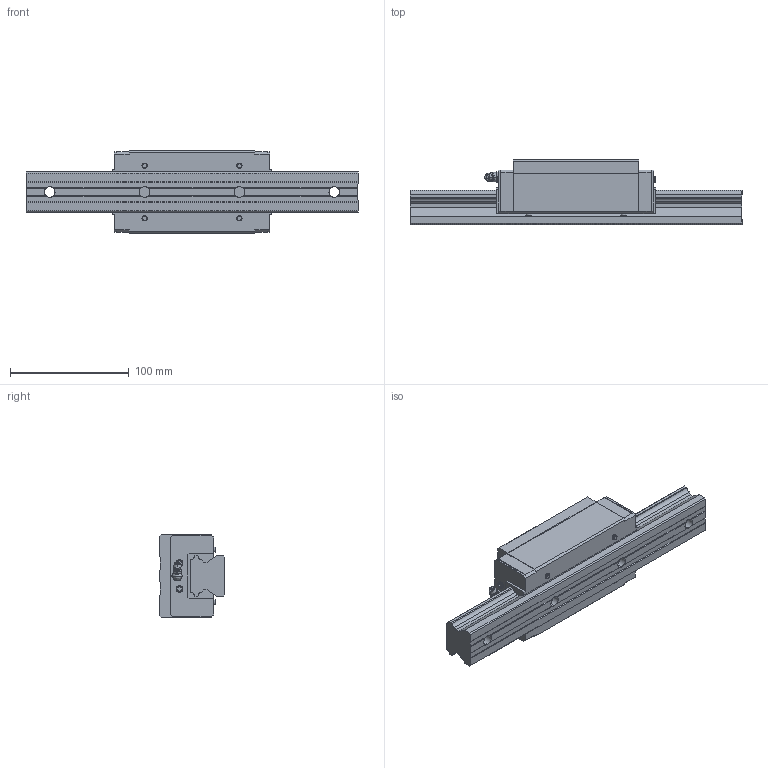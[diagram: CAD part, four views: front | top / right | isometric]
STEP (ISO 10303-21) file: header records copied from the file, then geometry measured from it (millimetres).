
FILE_DESCRIPTION (( 'STEP AP203' ), '1' );
FILE_NAME ('HSR35LRSSC.STEP', '2016-03-29T11:27:11', ( 'EOS' ), ( '' ), 'SwSTEP 2.0', 'SolidWorks 2016', '' );
FILE_SCHEMA (( 'CONFIG_CONTROL_DESIGN' ));
Length unit declared in the file: millimetre
Products named in the file (4): 1; HSR35LRSSC; 3; 2_1
Assembly tree (3 placements, depth 2):
  HSR35LRSSC
    1
    2_1
    3
Bounding box: 280 x 55 x 70 mm (x, y, z)
Volume: 552741.3 mm3; surface area: 85062.5 mm2
Topology: 3 solids, 3 shells, 305 faces, 809 edges, 516 vertices
Faces by surface type: plane 188, cylinder 56, cone 36, bspline 25
Entity records: 10171 total; most frequent: CARTESIAN_POINT 2368, ORIENTED_EDGE 1586, DIRECTION 1486, EDGE_CURVE 793, VECTOR 534, LINE 534, VERTEX_POINT 516, AXIS2_PLACEMENT_3D 476
